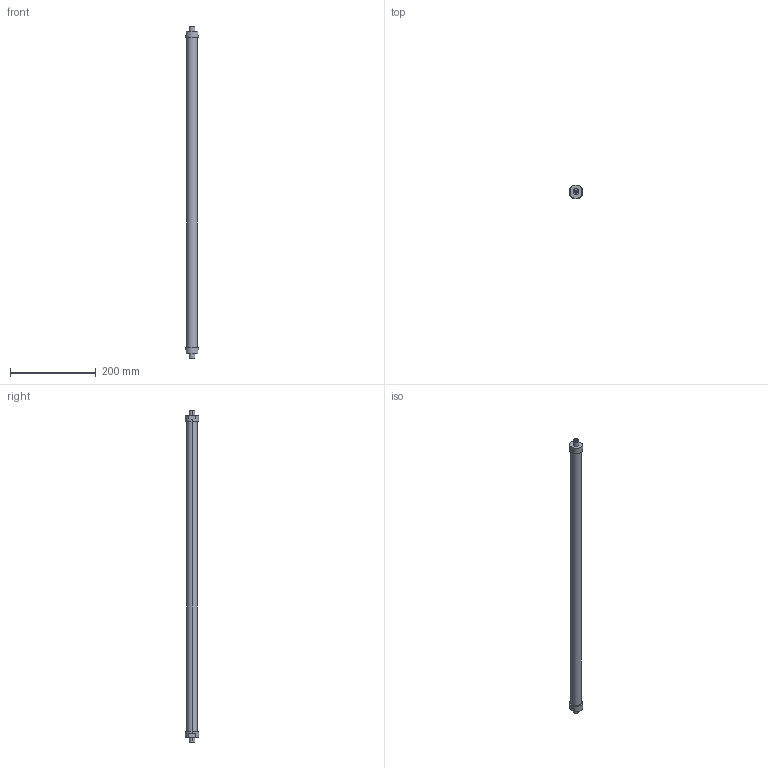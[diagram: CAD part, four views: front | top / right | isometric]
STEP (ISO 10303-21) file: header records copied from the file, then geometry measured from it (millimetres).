
FILE_DESCRIPTION(('STEP AP214'),'1');
FILE_NAME('ETT-R050G764.stp','2015-02-02T13:05:51',(' '),(' '),'Spatial InterOp 3D',' ',' ');
FILE_SCHEMA(('automotive_design'));
Length unit declared in the file: metre
Products named in the file (3): 1; 2; 3
Bounding box: 31 x 31 x 776 mm (x, y, z)
Volume: 358336.5 mm3; surface area: 77834.2 mm2
Topology: 1 solids, 7 shells, 32 faces, 86 edges, 66 vertices
Faces by surface type: cylinder 16, plane 16
Entity records: 1375 total; most frequent: DIRECTION 206, CARTESIAN_POINT 187, ORIENTED_EDGE 148, EDGE_CURVE 86, AXIS2_PLACEMENT_3D 85, VERTEX_POINT 66, CIRCLE 50, EDGE_LOOP 40
